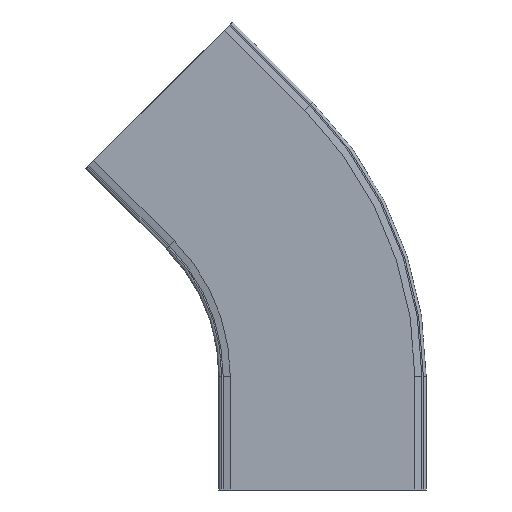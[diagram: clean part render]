
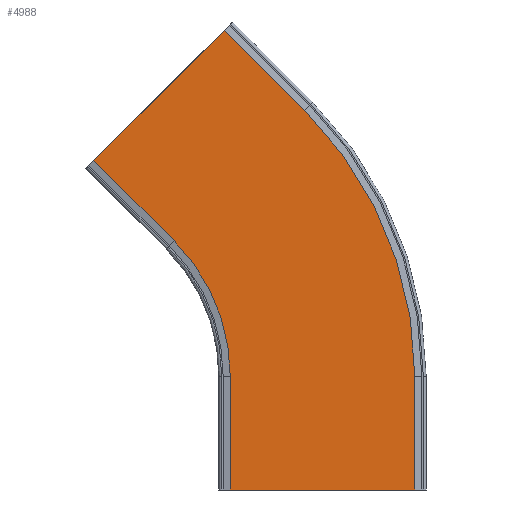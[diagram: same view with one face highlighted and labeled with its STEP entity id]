
A CAD part, front view. The second image highlights one B-rep face of the part: STEP entity #4988.
In plain terms, the highlighted planar face has unit normal (0, -1, 0).
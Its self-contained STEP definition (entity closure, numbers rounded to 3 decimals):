
#4745=CARTESIAN_POINT('',(104.,-74.,0.0));
#4746=VERTEX_POINT('',#4745);
#4753=CARTESIAN_POINT('',(-26.,-74.,0.0));
#4754=VERTEX_POINT('',#4753);
#4755=CARTESIAN_POINT('',(-26.,-74.,0.0));
#4756=DIRECTION('',(1.0,0.0,0.0));
#4757=VECTOR('',#4756,130.);
#4758=LINE('',#4755,#4757);
#4759=EDGE_CURVE('',#4754,#4746,#4758,.T.);
#4814=CARTESIAN_POINT('',(-26.,-74.,80.0));
#4815=VERTEX_POINT('',#4814);
#4824=CARTESIAN_POINT('',(-26.,-74.,0.0));
#4825=DIRECTION('',(0.0,0.0,1.0));
#4826=VECTOR('',#4825,80.0);
#4827=LINE('',#4824,#4826);
#4828=EDGE_CURVE('',#4754,#4815,#4827,.T.);
#4838=CARTESIAN_POINT('',(104.,-74.,80.0));
#4839=VERTEX_POINT('',#4838);
#4848=CARTESIAN_POINT('',(104.,-74.,0.0));
#4849=DIRECTION('',(0.0,0.0,1.0));
#4850=VECTOR('',#4849,80.0);
#4851=LINE('',#4848,#4850);
#4852=EDGE_CURVE('',#4746,#4839,#4851,.T.);
#4871=CARTESIAN_POINT('',(-65.541,-74.,175.459));
#4872=VERTEX_POINT('',#4871);
#4887=CARTESIAN_POINT('',(-161.,-74.,80.0));
#4888=DIRECTION('',(0.0,-1.0,0.0));
#4889=DIRECTION('',(1.0,0.0,0.0));
#4890=AXIS2_PLACEMENT_3D('',#4887,#4888,#4889);
#4891=CIRCLE('',#4890,135.);
#4892=EDGE_CURVE('',#4815,#4872,#4891,.T.);
#4946=CARTESIAN_POINT('',(194.024,-74.,99.743));
#4947=DIRECTION('',(0.0,-1.0,0.0));
#4948=DIRECTION('',(0.707,0.0,-0.707));
#4949=AXIS2_PLACEMENT_3D('',#4946,#4947,#4948);
#4950=PLANE('',#4949);
#4951=CARTESIAN_POINT('',(-30.185,-74.,323.952));
#4952=VERTEX_POINT('',#4951);
#4953=CARTESIAN_POINT('',(-122.109,-74.,232.028));
#4954=VERTEX_POINT('',#4953);
#4955=CARTESIAN_POINT('',(-30.185,-74.,323.952));
#4956=DIRECTION('',(-0.707,0.,-0.707));
#4957=VECTOR('',#4956,130.);
#4958=LINE('',#4955,#4957);
#4959=EDGE_CURVE('',#4952,#4954,#4958,.T.);
#4960=ORIENTED_EDGE('',*,*,#4959,.T.);
#4961=CARTESIAN_POINT('',(-65.541,-74.,175.459));
#4962=DIRECTION('',(-0.707,0.0,0.707));
#4963=VECTOR('',#4962,80.0);
#4964=LINE('',#4961,#4963);
#4965=EDGE_CURVE('',#4872,#4954,#4964,.T.);
#4966=ORIENTED_EDGE('',*,*,#4965,.F.);
#4967=ORIENTED_EDGE('',*,*,#4892,.F.);
#4968=ORIENTED_EDGE('',*,*,#4828,.F.);
#4969=ORIENTED_EDGE('',*,*,#4759,.T.);
#4970=ORIENTED_EDGE('',*,*,#4852,.T.);
#4971=CARTESIAN_POINT('',(26.383,-74.,267.383));
#4972=VERTEX_POINT('',#4971);
#4973=CARTESIAN_POINT('',(-161.,-74.,80.0));
#4974=DIRECTION('',(0.0,-1.0,0.0));
#4975=DIRECTION('',(1.0,0.0,0.0));
#4976=AXIS2_PLACEMENT_3D('',#4973,#4974,#4975);
#4977=CIRCLE('',#4976,265.);
#4978=EDGE_CURVE('',#4839,#4972,#4977,.T.);
#4979=ORIENTED_EDGE('',*,*,#4978,.T.);
#4980=CARTESIAN_POINT('',(26.383,-74.,267.383));
#4981=DIRECTION('',(-0.707,0.0,0.707));
#4982=VECTOR('',#4981,80.);
#4983=LINE('',#4980,#4982);
#4984=EDGE_CURVE('',#4972,#4952,#4983,.T.);
#4985=ORIENTED_EDGE('',*,*,#4984,.T.);
#4986=EDGE_LOOP('',(#4960,#4966,#4967,#4968,#4969,#4970,#4979,#4985));
#4987=FACE_OUTER_BOUND('',#4986,.T.);
#4988=ADVANCED_FACE('',(#4987),#4950,.T.);
